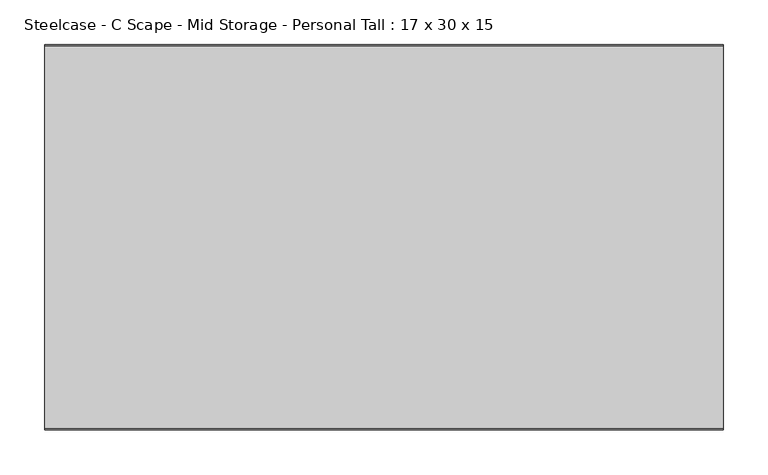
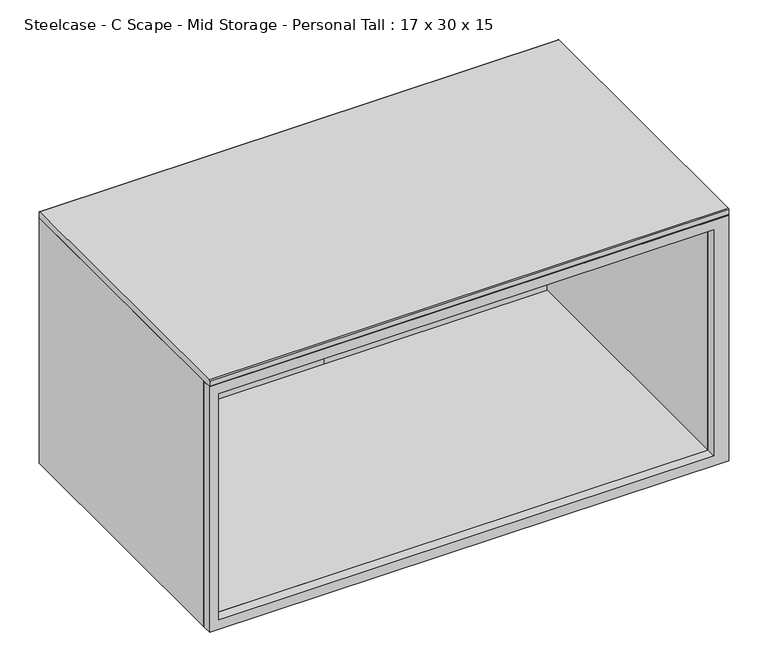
"""IFC4 building model written with IfcOpenShell, lengths in millimetres: furniture geometry, Steelcase - C Scape - Mid Storage - Personal Tall : 17 x 30 x 15."""

from ifc_helpers import new_model, si_unit, point, frame, frame_2d, origin, place, context, project, spatial, polyline, circle_curve, trimmed, segment, composite_curve, outline, extrude, source, transform, mapped, element, save


def steelcase_c_scape_mid_storage_personal_tall_17_x_30_x_15_d239e668(model_context):
    return source(origin(), model_context, "Body", "SweptSolid", [
        extrude(outline(polyline([(1219.2, 762.0), (1219.2, 0.0), (838.2, 0.0), (838.2, 762.0), (1219.2, 762.0)]), holes=[polyline([(1203.9092, 739.902), (853.4399855, 739.902), (853.4399855, 13.437709), (1203.9092, 13.437709), (1203.9092, 739.902)])]), frame((0.0, -216.535, 0.0), z_axis=(0.0, 1.0, 0.0), x_axis=(0.0, 0.0, 1.0)), (0.0, 0.0, 1.0), 14.3764481),
        extrude(outline(polyline([(739.902, 207.0105809), (739.902, -187.7821039), (13.437709, -187.7821039), (13.437709, 207.0105809), (739.902, 207.0105809)])), frame((0.0, 0.0, 1203.9600145), z_axis=(0.0, 0.0, 1.0), x_axis=(1.0, 0.0, 0.0)), (0.0, 0.0, 1.0), 15.2399855),
        extrude(outline(polyline([(739.902, 207.0105809), (739.902, -202.1585519), (13.437709, -202.1585519), (13.437709, 207.0105809), (739.902, 207.0105809)])), frame((0.0, 0.0, 838.2), z_axis=(0.0, 0.0, 1.0), x_axis=(1.0, 0.0, 0.0)), (0.0, 0.0, 1.0), 15.2399855),
        extrude(outline(composite_curve([segment(polyline([(-215.265, 1229.36), (215.265, 1229.36)]), True, "CONTINUOUS"), segment(trimmed(circle_curve(frame_2d((215.265, 1228.09)), 1.27), [point((215.265, 1229.36))], [point((216.535, 1228.09))], False, "CARTESIAN"), True, "CONTINUOUS"), segment(polyline([(216.535, 1228.09), (216.535, 1220.47)]), True, "CONTINUOUS"), segment(trimmed(circle_curve(frame_2d((215.265, 1220.47)), 1.27), [point((216.535, 1220.47))], [point((215.265, 1219.2))], False, "CARTESIAN"), True, "CONTINUOUS"), segment(polyline([(215.265, 1219.2), (-215.265, 1219.2)]), True, "CONTINUOUS"), segment(trimmed(circle_curve(frame_2d((-215.265, 1220.47)), 1.27), [point((-215.265, 1219.2))], [point((-216.535, 1220.47))], False, "CARTESIAN"), True, "CONTINUOUS"), segment(polyline([(-216.535, 1220.47), (-216.535, 1228.09)]), True, "CONTINUOUS"), segment(trimmed(circle_curve(frame_2d((-215.265, 1228.09)), 1.27), [point((-216.535, 1228.09))], [point((-215.265, 1229.36))], False, "CARTESIAN"), True, "CONTINUOUS")], self_intersect=False)), frame((0.0, 0.0, 0.0), z_axis=(1.0, 0.0, 0.0), x_axis=(0.0, 1.0, 0.0)), (0.0, 0.0, 1.0), 762.0),
        extrude(outline(polyline([(13.437709, -202.1585519), (0.0, -202.1585519), (0.0, 216.535), (762.0, 216.535), (762.0, -202.1585519), (739.902, -202.1585519), (739.902, 207.0105809), (412.2892922, 207.0105809), (13.437709, 207.0105809), (13.437709, -202.1585519)])), frame((0.0, 0.0, 838.2), z_axis=(0.0, 0.0, 1.0), x_axis=(1.0, 0.0, 0.0)), (0.0, 0.0, 1.0), 381.0),
    ])


if __name__ == "__main__":
    model = new_model("IFC4")
    model_context = context("Model", 3, world=origin())
    ifc_project = project(units=[si_unit("LENGTHUNIT", "METRE", prefix="MILLI")], contexts=[model_context])
    site = spatial("IfcSite", under=ifc_project)
    building = spatial("IfcBuilding", under=site)
    placement = place(None, origin())
    steelcase_c_scape_mid_storage_personal_tall_17_x_30_x_15_shape = steelcase_c_scape_mid_storage_personal_tall_17_x_30_x_15_d239e668(model_context)
    element("IfcFurniture", 1, ObjectType="Steelcase - C Scape - Mid Storage - Personal Tall : 17 x 30 x 15", at=placement, inside=building, context=model_context, shape_type="MappedRepresentation", body=[
        mapped(steelcase_c_scape_mid_storage_personal_tall_17_x_30_x_15_shape, transform((0.0, 0.0, 0.0), x_axis=(1.0, 0.0, 0.0), y_axis=(0.0, 1.0, 0.0), z_axis=(0.0, 0.0, 1.0))),
    ])
    save(model, "model.ifc")
